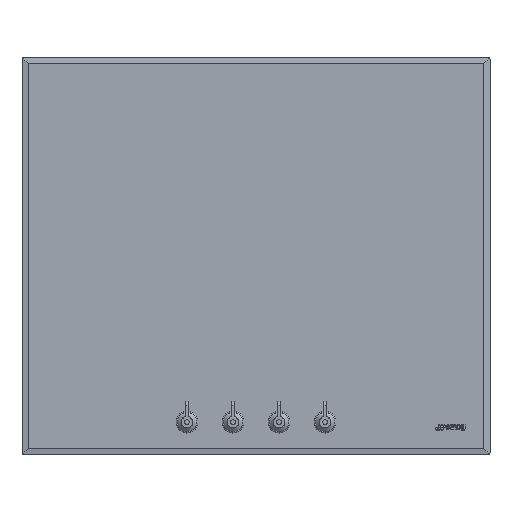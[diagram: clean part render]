
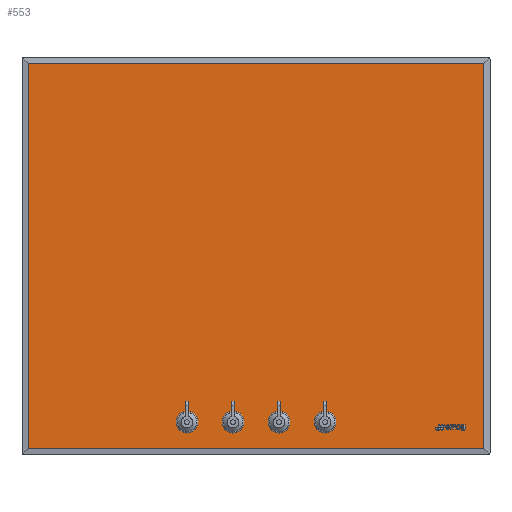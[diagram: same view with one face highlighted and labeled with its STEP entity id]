
A CAD part, top view. The second image highlights one B-rep face of the part: STEP entity #553.
In plain terms, the highlighted planar face has unit normal (0, 0, 1).
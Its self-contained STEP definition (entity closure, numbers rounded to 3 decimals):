
#253=PLANE('',#2894);
#553=ADVANCED_FACE('',(#1155,#1156,#1157,#1158,#1159),#253,.T.);
#788=LINE('',#4070,#969);
#789=LINE('',#4073,#970);
#790=LINE('',#4075,#971);
#791=LINE('',#4077,#972);
#969=VECTOR('',#3256,1.);
#970=VECTOR('',#3257,1.);
#971=VECTOR('',#3258,1.);
#972=VECTOR('',#3259,1.);
#1155=FACE_BOUND('',#1281,.T.);
#1156=FACE_BOUND('',#1282,.T.);
#1157=FACE_BOUND('',#1283,.T.);
#1158=FACE_BOUND('',#1284,.T.);
#1159=FACE_BOUND('',#1285,.T.);
#1281=EDGE_LOOP('',(#1558));
#1282=EDGE_LOOP('',(#1559));
#1283=EDGE_LOOP('',(#1560));
#1284=EDGE_LOOP('',(#1561));
#1285=EDGE_LOOP('',(#1562,#1563,#1564,#1565));
#1558=ORIENTED_EDGE('',*,*,#2445,.F.);
#1559=ORIENTED_EDGE('',*,*,#2446,.F.);
#1560=ORIENTED_EDGE('',*,*,#2447,.F.);
#1561=ORIENTED_EDGE('',*,*,#2448,.F.);
#1562=ORIENTED_EDGE('',*,*,#2449,.T.);
#1563=ORIENTED_EDGE('',*,*,#2450,.T.);
#1564=ORIENTED_EDGE('',*,*,#2451,.T.);
#1565=ORIENTED_EDGE('',*,*,#2452,.T.);
#2196=VERTEX_POINT('',#4063);
#2197=VERTEX_POINT('',#4065);
#2198=VERTEX_POINT('',#4067);
#2199=VERTEX_POINT('',#4069);
#2200=VERTEX_POINT('',#4071);
#2201=VERTEX_POINT('',#4072);
#2202=VERTEX_POINT('',#4074);
#2203=VERTEX_POINT('',#4076);
#2445=EDGE_CURVE('',#2196,#2196,#2753,.T.);
#2446=EDGE_CURVE('',#2197,#2197,#2754,.T.);
#2447=EDGE_CURVE('',#2198,#2198,#2755,.T.);
#2448=EDGE_CURVE('',#2199,#2199,#2756,.T.);
#2449=EDGE_CURVE('',#2200,#2201,#788,.T.);
#2450=EDGE_CURVE('',#2201,#2202,#789,.T.);
#2451=EDGE_CURVE('',#2202,#2203,#790,.T.);
#2452=EDGE_CURVE('',#2203,#2200,#791,.T.);
#2753=CIRCLE('',#2890,11.);
#2754=CIRCLE('',#2891,11.);
#2755=CIRCLE('',#2892,11.);
#2756=CIRCLE('',#2893,11.);
#2890=AXIS2_PLACEMENT_3D('',#4062,#3248,#3249);
#2891=AXIS2_PLACEMENT_3D('',#4064,#3250,#3251);
#2892=AXIS2_PLACEMENT_3D('',#4066,#3252,#3253);
#2893=AXIS2_PLACEMENT_3D('',#4068,#3254,#3255);
#2894=AXIS2_PLACEMENT_3D('',#4078,#3260,#3261);
#3248=DIRECTION('',(0.,0.,1.));
#3249=DIRECTION('',(1.,0.,0.));
#3250=DIRECTION('',(0.,0.,1.));
#3251=DIRECTION('',(1.,0.,0.));
#3252=DIRECTION('',(0.,0.,1.));
#3253=DIRECTION('',(1.,0.,0.));
#3254=DIRECTION('',(0.,0.,1.));
#3255=DIRECTION('',(1.,0.,0.));
#3256=DIRECTION('',(0.,1.,0.));
#3257=DIRECTION('',(-1.,0.,0.));
#3258=DIRECTION('',(0.,-1.,0.));
#3259=DIRECTION('',(1.,0.,0.));
#3260=DIRECTION('',(0.,0.,1.));
#3261=DIRECTION('',(1.,0.,0.));
#4062=CARTESIAN_POINT('',(88.5,42.,54.5));
#4063=CARTESIAN_POINT('',(99.5,42.,54.5));
#4064=CARTESIAN_POINT('',(29.5,42.,54.5));
#4065=CARTESIAN_POINT('',(40.5,42.,54.5));
#4066=CARTESIAN_POINT('',(-29.5,42.,54.5));
#4067=CARTESIAN_POINT('',(-18.5,42.,54.5));
#4068=CARTESIAN_POINT('',(-88.5,42.,54.5));
#4069=CARTESIAN_POINT('',(-77.5,42.,54.5));
#4070=CARTESIAN_POINT('',(292.,510.,54.5));
#4071=CARTESIAN_POINT('',(292.,8.,54.5));
#4072=CARTESIAN_POINT('',(292.,502.,54.5));
#4073=CARTESIAN_POINT('',(-300.,502.,54.5));
#4074=CARTESIAN_POINT('',(-292.,502.,54.5));
#4075=CARTESIAN_POINT('',(-292.,0.,54.5));
#4076=CARTESIAN_POINT('',(-292.,8.,54.5));
#4077=CARTESIAN_POINT('',(300.,8.,54.5));
#4078=CARTESIAN_POINT('',(0.,0.,54.5));
